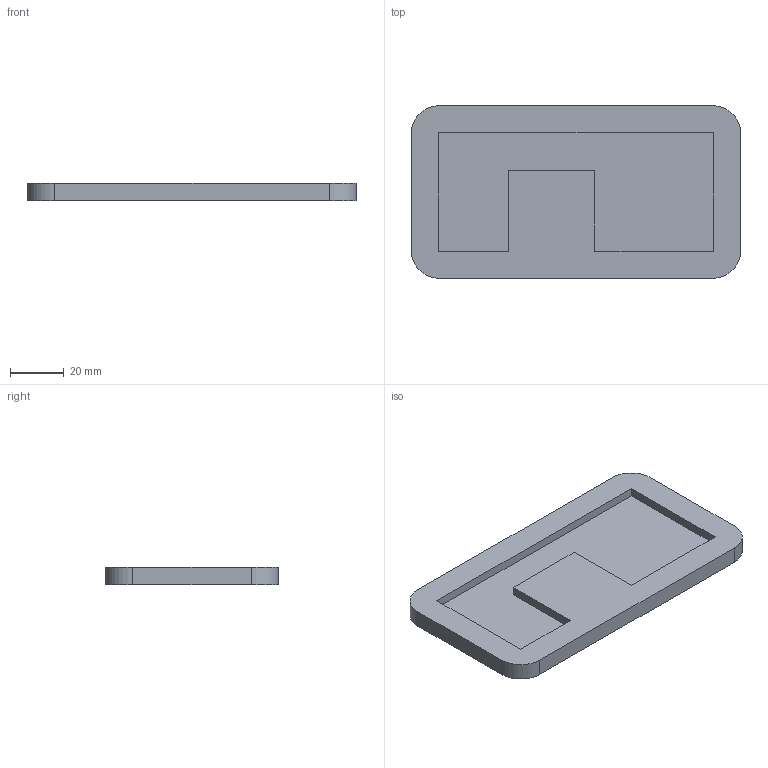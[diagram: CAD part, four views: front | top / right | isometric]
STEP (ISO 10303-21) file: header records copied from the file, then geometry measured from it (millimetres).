
FILE_DESCRIPTION(('FreeCAD Model'),'2;1');
FILE_NAME('Open CASCADE Shape Model','2026-11-08T23:31:29',('FreeCAD'),( 'FreeCAD'),'Open CASCADE STEP processor 7.8','FreeCAD','Unknown');
FILE_SCHEMA(('AUTOMOTIVE_DESIGN { 1 0 10303 214 1 1 1 1 }'));
Length unit declared in the file: millimetre
Products named in the file (1): Open CASCADE STEP translator 7.8 13
Bounding box: 122 x 64 x 6.5 mm (x, y, z)
Volume: 38433.8 mm3; surface area: 19100.8 mm2
Topology: 1 solids, 1 shells, 27 faces, 60 edges, 40 vertices
Faces by surface type: plane 19, cylinder 8
Full cylindrical faces by diameter (mm): 2.5 x4
Entity records: 760 total; most frequent: DIRECTION 132, CARTESIAN_POINT 128, ORIENTED_EDGE 120, EDGE_CURVE 60, AXIS2_PLACEMENT_3D 44, LINE 44, VECTOR 44, VERTEX_POINT 40
